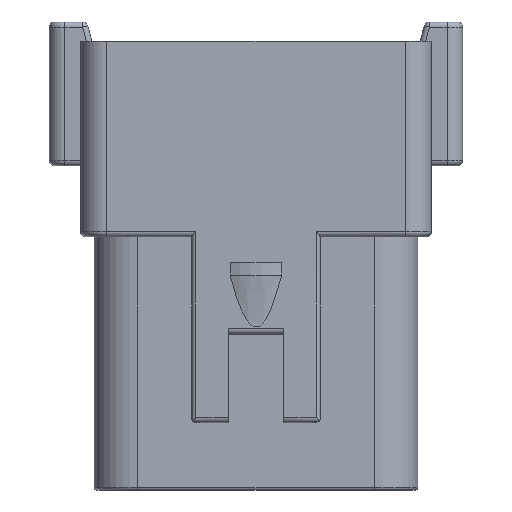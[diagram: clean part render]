
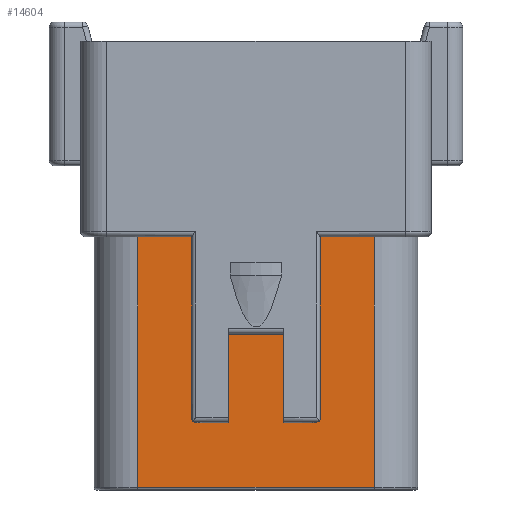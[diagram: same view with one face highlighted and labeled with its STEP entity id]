
A CAD part, front view. The second image highlights one B-rep face of the part: STEP entity #14604.
In plain terms, the highlighted planar face has unit normal (0, -1, 0).
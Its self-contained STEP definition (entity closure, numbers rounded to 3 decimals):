
#946=DIRECTION('',(1.,0.,0.));
#947=VECTOR('',#946,6.604);
#948=CARTESIAN_POINT('',(-11.621,-9.093,-19.177));
#949=LINE('',#948,#947);
#982=DIRECTION('',(1.,0.,0.));
#983=VECTOR('',#982,6.604);
#984=CARTESIAN_POINT('',(5.017,-9.093,-19.177));
#985=LINE('',#984,#983);
#4732=DIRECTION('',(-1.,0.,0.));
#4733=VECTOR('',#4732,23.241);
#4734=CARTESIAN_POINT('',(11.621,-9.093,-43.764));
#4735=LINE('',#4734,#4733);
#4736=DIRECTION('',(0.,0.,-1.));
#4737=VECTOR('',#4736,24.587);
#4738=CARTESIAN_POINT('',(-11.621,-9.093,-19.177));
#4739=LINE('',#4738,#4737);
#4740=DIRECTION('',(0.,0.,-1.));
#4741=VECTOR('',#4740,18.237);
#4742=CARTESIAN_POINT('',(-5.017,-9.093,-19.177));
#4743=LINE('',#4742,#4741);
#4744=DIRECTION('',(1.,0.,0.));
#4745=VECTOR('',#4744,2.286);
#4746=CARTESIAN_POINT('',(-5.017,-9.093,-37.414));
#4747=LINE('',#4746,#4745);
#4748=DIRECTION('',(-1.,0.,0.));
#4749=VECTOR('',#4748,5.461);
#4750=CARTESIAN_POINT('',(2.731,-9.093,-19.38));
#4751=LINE('',#4750,#4749);
#4752=DIRECTION('',(1.,0.,0.));
#4753=VECTOR('',#4752,2.286);
#4754=CARTESIAN_POINT('',(2.731,-9.093,-37.414));
#4755=LINE('',#4754,#4753);
#4756=DIRECTION('',(0.,0.,-1.));
#4757=VECTOR('',#4756,18.237);
#4758=CARTESIAN_POINT('',(5.017,-9.093,-19.177));
#4759=LINE('',#4758,#4757);
#6263=DIRECTION('',(0.,0.,-1.));
#6264=VECTOR('',#6263,24.587);
#6265=CARTESIAN_POINT('',(11.621,-9.093,-19.177));
#6266=LINE('',#6265,#6264);
#7364=DIRECTION('',(0.,0.,1.));
#7365=VECTOR('',#7364,18.034);
#7366=CARTESIAN_POINT('',(-2.731,-9.093,-37.414));
#7367=LINE('',#7366,#7365);
#7461=DIRECTION('',(0.,0.,1.));
#7462=VECTOR('',#7461,18.034);
#7463=CARTESIAN_POINT('',(2.731,-9.093,-37.414));
#7464=LINE('',#7463,#7462);
#7538=CARTESIAN_POINT('',(-11.621,-9.093,-19.177));
#7539=VERTEX_POINT('',#7538);
#7540=CARTESIAN_POINT('',(11.621,-9.093,-19.177));
#7542=VERTEX_POINT('',#7540);
#7592=CARTESIAN_POINT('',(5.017,-9.093,-19.177));
#7594=VERTEX_POINT('',#7592);
#7597=CARTESIAN_POINT('',(-5.017,-9.093,-19.177));
#7599=VERTEX_POINT('',#7597);
#7616=CARTESIAN_POINT('',(-5.017,-9.093,-37.414));
#7617=CARTESIAN_POINT('',(-2.731,-9.093,-37.414));
#7618=VERTEX_POINT('',#7616);
#7619=VERTEX_POINT('',#7617);
#7620=CARTESIAN_POINT('',(2.731,-9.093,-37.414));
#7621=CARTESIAN_POINT('',(5.017,-9.093,-37.414));
#7622=VERTEX_POINT('',#7620);
#7623=VERTEX_POINT('',#7621);
#7873=CARTESIAN_POINT('',(11.621,-9.093,-43.764));
#7875=VERTEX_POINT('',#7873);
#7902=CARTESIAN_POINT('',(-11.621,-9.093,-43.764));
#7903=VERTEX_POINT('',#7902);
#8859=CARTESIAN_POINT('',(-2.731,-9.093,-19.38));
#8861=VERTEX_POINT('',#8859);
#8865=CARTESIAN_POINT('',(2.731,-9.093,-19.38));
#8866=VERTEX_POINT('',#8865);
#14578=CARTESIAN_POINT('',(-11.621,-9.093,-19.177));
#14579=DIRECTION('',(0.,-1.,0.));
#14580=DIRECTION('',(1.,0.,0.));
#14581=AXIS2_PLACEMENT_3D('',#14578,#14579,#14580);
#14582=PLANE('',#14581);
#14584=ORIENTED_EDGE('',*,*,#14583,.T.);
#14586=ORIENTED_EDGE('',*,*,#14585,.F.);
#14587=ORIENTED_EDGE('',*,*,#10132,.T.);
#14589=ORIENTED_EDGE('',*,*,#14588,.T.);
#14590=ORIENTED_EDGE('',*,*,#14569,.T.);
#14592=ORIENTED_EDGE('',*,*,#14591,.T.);
#14594=ORIENTED_EDGE('',*,*,#14593,.F.);
#14596=ORIENTED_EDGE('',*,*,#14595,.F.);
#14597=ORIENTED_EDGE('',*,*,#14553,.T.);
#14598=ORIENTED_EDGE('',*,*,#14540,.F.);
#14599=ORIENTED_EDGE('',*,*,#10148,.T.);
#14601=ORIENTED_EDGE('',*,*,#14600,.T.);
#14602=EDGE_LOOP('',(#14584,#14586,#14587,#14589,#14590,#14592,#14594,#14596,
#14597,#14598,#14599,#14601));
#14603=FACE_OUTER_BOUND('',#14602,.F.);
#10132=EDGE_CURVE('',#7539,#7599,#949,.T.);
#10148=EDGE_CURVE('',#7594,#7542,#985,.T.);
#14540=EDGE_CURVE('',#7594,#7623,#4759,.T.);
#14553=EDGE_CURVE('',#7622,#7623,#4755,.T.);
#14569=EDGE_CURVE('',#7618,#7619,#4747,.T.);
#14583=EDGE_CURVE('',#7875,#7903,#4735,.T.);
#14585=EDGE_CURVE('',#7539,#7903,#4739,.T.);
#14588=EDGE_CURVE('',#7599,#7618,#4743,.T.);
#14591=EDGE_CURVE('',#7619,#8861,#7367,.T.);
#14593=EDGE_CURVE('',#8866,#8861,#4751,.T.);
#14595=EDGE_CURVE('',#7622,#8866,#7464,.T.);
#14600=EDGE_CURVE('',#7542,#7875,#6266,.T.);
#14604=ADVANCED_FACE('',(#14603),#14582,.T.);
